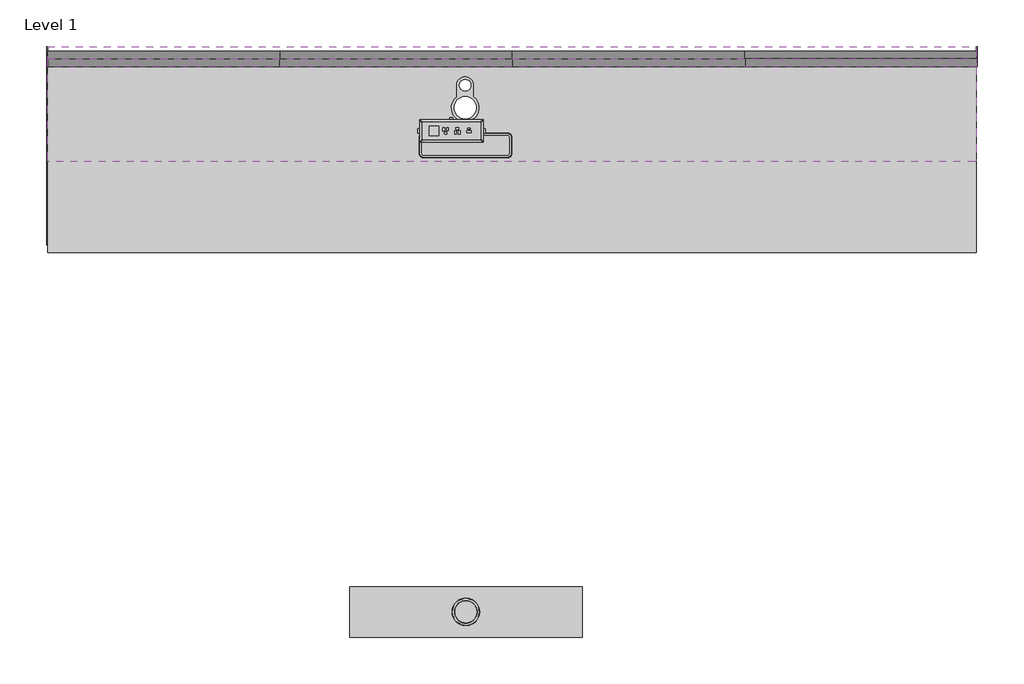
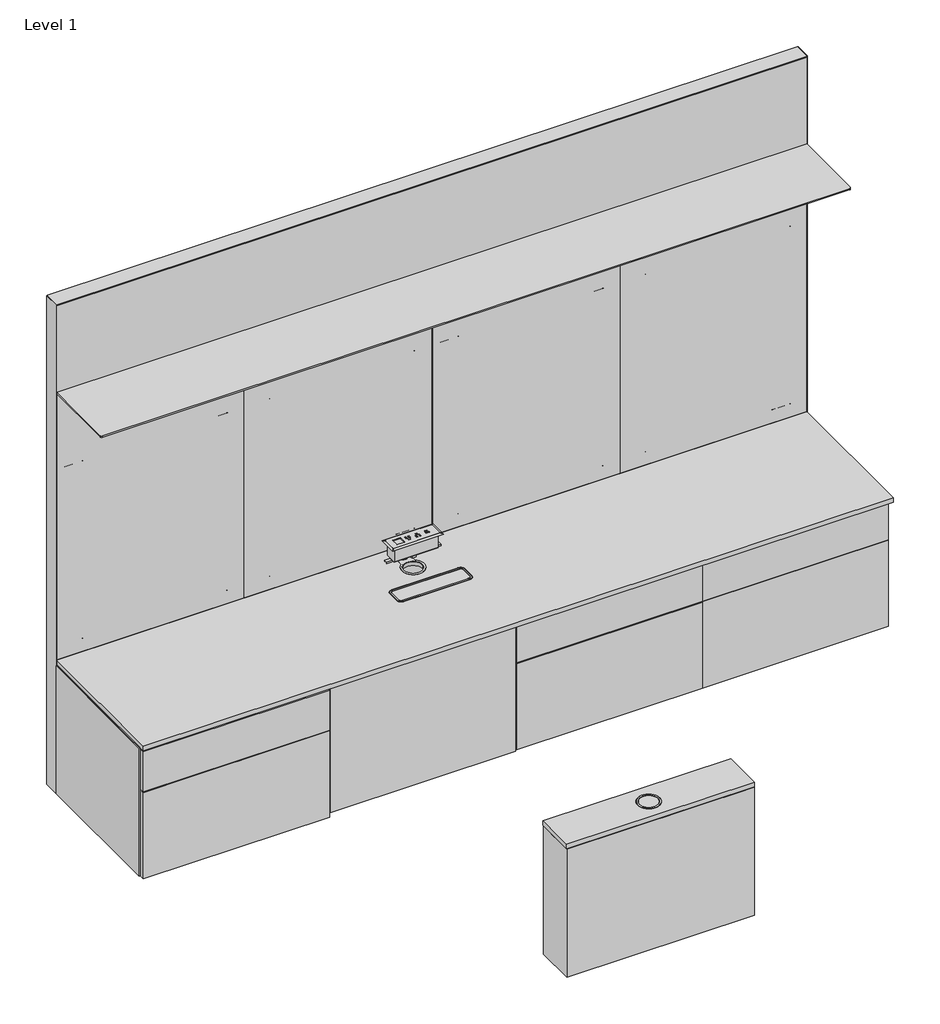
# One storey, incomplete: 19 furniture elements.
"""IFC4 building model written with IfcOpenShell, lengths in millimetres."""

from ifc_helpers import new_model, si_unit, origin, place, context, project, spatial, transform, mapped, element, save
from components import furniture_3015be08, furniture_4879214a, furniture_b60a1e1f, furniture_a1cb8eb2, furniture_5c446557, furniture_7d34e3fb, furniture_9a9e18b9, furniture_ab4901f7, furniture_4bc6fa38, furniture_3d431983, in_surface_33791ff7

model = new_model("IFC4")

# Units and contexts
model_context = context("Model", 3, world=origin())
ifc_project = project(units=[si_unit("LENGTHUNIT", "METRE", prefix="MILLI")], contexts=[model_context])

# Site, building, storey
site = spatial("IfcSite", under=ifc_project)
building = spatial("IfcBuilding", under=site)
storey = spatial("IfcBuildingStorey", under=building, Name="Level 1", Elevation=0.0)

# Furniture
placement = place(None, origin())
furniture_shape = furniture_3015be08(model_context)
element("IfcFurniture", 1, ObjectType="Geiger_GeigerOneCasegoods_LowStorage1Box1File : Vertical Veneer 30Wx24Dx21.75H", at=placement, inside=storey, context=model_context, shape_type="MappedRepresentation", body=[
    mapped(furniture_shape, transform((2146.1837672, 6625.0124171, 0.0), x_axis=(1.0, 0.0, 0.0), y_axis=(0.0, 1.0, 0.0), z_axis=(0.0, 0.0, 1.0))),
])
element("IfcFurniture", 2, ObjectType="Geiger_GeigerOneCasegoods_LowStorage1Box1File : Vertical Veneer 30Wx24Dx21.75H", at=placement, inside=storey, context=model_context, shape_type="MappedRepresentation", body=[
    mapped(furniture_shape, transform((3678.2637672, 6653.5524171, 0.0), x_axis=(1.0, 0.0, 0.0), y_axis=(0.0, 1.0, 0.0), z_axis=(0.0, 0.0, 1.0))),
])
element("IfcFurniture", 3, ObjectType="Geiger_GeigerOneCasegoods_LowStorage1Box1File : Vertical Veneer 30Wx24Dx21.75H", at=placement, inside=storey, context=model_context, shape_type="MappedRepresentation", body=[
    mapped(furniture_shape, transform((4435.1837672, 6653.5524171, 0.0), x_axis=(1.0, 0.0, 0.0), y_axis=(0.0, 1.0, 0.0), z_axis=(0.0, 0.0, 1.0))),
])
furniture_2_shape = furniture_4879214a(model_context)
element("IfcFurniture", 4, ObjectType="Geiger_GeigerOneCasegoods_KneespaceCoverPanel : Vertical Veneer 29.75Wx 0.75Dx 21.75H", at=placement, inside=storey, context=model_context, shape_type="MappedRepresentation", body=[
    mapped(furniture_2_shape, transform((2919.5540391, 6055.472289, 15.6972), x_axis=(1.0, 0.0, 0.0), y_axis=(0.0, 1.0, 0.0), z_axis=(0.0, 0.0, 1.0))),
])
furniture_3_shape = furniture_b60a1e1f(model_context)
element("IfcFurniture", 5, ObjectType="Geiger_GeigerOneCasegoods_LegSupport : Box 30Wx 6.5Dx 22.5H", at=placement, inside=storey, context=model_context, shape_type="MappedRepresentation", body=[
    mapped(furniture_3_shape, transform((3521.7964507, 4834.9438668, 0.0), x_axis=(1.0, 0.0, 0.0), y_axis=(0.0, 1.0, 0.0), z_axis=(0.0, 0.0, 1.0))),
])
furniture_4_shape = furniture_a1cb8eb2(model_context)
element("IfcFurniture", 6, ObjectType="Geiger_GeigerOneCasegoods_WallTileAcceptsTileAboveFabric : Fabric 30Wx 1.25Dx 45H", at=placement, inside=storey, context=model_context, shape_type="MappedRepresentation", body=[
    mapped(furniture_4_shape, transform((4438.4930669, 6657.8600425, 585.1906), x_axis=(1.0, 0.0, 0.0), y_axis=(0.0, 1.0, 0.0), z_axis=(0.0, 0.0, 1.0))),
])
element("IfcFurniture", 7, ObjectType="Geiger_GeigerOneCasegoods_WallTileAcceptsTileAboveFabric : Fabric 30Wx 1.25Dx 45H", at=placement, inside=storey, context=model_context, shape_type="MappedRepresentation", body=[
    mapped(furniture_4_shape, transform((3676.4930669, 6657.8600425, 585.1906), x_axis=(1.0, 0.0, 0.0), y_axis=(0.0, 1.0, 0.0), z_axis=(0.0, 0.0, 1.0))),
])
element("IfcFurniture", 8, ObjectType="Geiger_GeigerOneCasegoods_WallTileAcceptsTileAboveFabric : Fabric 30Wx 1.25Dx 45H", at=placement, inside=storey, context=model_context, shape_type="MappedRepresentation", body=[
    mapped(furniture_4_shape, transform((2911.3180669, 6657.8600425, 585.1906), x_axis=(1.0, 0.0, 0.0), y_axis=(0.0, 1.0, 0.0), z_axis=(0.0, 0.0, 1.0))),
])
element("IfcFurniture", 9, ObjectType="Geiger_GeigerOneCasegoods_WallTileAcceptsTileAboveFabric : Fabric 30Wx 1.25Dx 45H", at=placement, inside=storey, context=model_context, shape_type="MappedRepresentation", body=[
    mapped(furniture_4_shape, transform((2149.3180669, 6657.8600425, 585.1906), x_axis=(1.0, 0.0, 0.0), y_axis=(0.0, 1.0, 0.0), z_axis=(0.0, 0.0, 1.0))),
])
furniture_5_shape = furniture_5c446557(model_context)
element("IfcFurniture", 10, ObjectType="Geiger_GeigerOneCasegoods_WallEndTrim : SingleSided 2.625Wx 0.125Dx 82.625H", at=placement, inside=storey, context=model_context, shape_type="MappedRepresentation", body=[
    mapped(furniture_5_shape, transform((2149.1837672, 6657.8499171, 12.7), x_axis=(-1.0, 0.0, 0.0), y_axis=(0.0, -1.0, 0.0), z_axis=(0.0, 0.0, 1.0))),
])
furniture_6_shape = furniture_7d34e3fb(model_context)
element("IfcFurniture", 11, ObjectType="Geiger_GeigerOneCasegoods_WallTopTrimSingleSidedWall : 120Wx2.625Dx0.125H", at=placement, inside=storey, context=model_context, shape_type="MappedRepresentation", body=[
    mapped(furniture_6_shape, transform((2149.1837672, 6657.5124171, 2108.708), x_axis=(1.0, 0.0, 0.0), y_axis=(0.0, 1.0, 0.0), z_axis=(0.0, 0.0, 1.0))),
])
furniture_7_shape = furniture_9a9e18b9(model_context)
element("IfcFurniture", 12, ObjectType="Geiger_GeigerOneCasegoods_WallEndTrim : SingleSided 2.625Wx 0.125Dx 82.625H", at=placement, inside=storey, context=model_context, shape_type="MappedRepresentation", body=[
    mapped(furniture_7_shape, transform((5197.1837672, 6657.8499171, 12.7), x_axis=(1.0, 0.0, 0.0), y_axis=(0.0, 1.0, 0.0), z_axis=(0.0, 0.0, 1.0))),
])
furniture_8_shape = furniture_ab4901f7(model_context)
element("IfcFurniture", 13, ObjectType="Geiger_GeigerOneCasegoods_WallFrameStandardApplication : 30Wx1Dx82.5H", at=placement, inside=storey, context=model_context, shape_type="MappedRepresentation", body=[
    mapped(furniture_8_shape, transform((2149.1837672, 6676.5124171, 0.0), x_axis=(1.0, 0.0, 0.0), y_axis=(0.0, 1.0, 0.0), z_axis=(0.0, 0.0, 1.0))),
])
element("IfcFurniture", 14, ObjectType="Geiger_GeigerOneCasegoods_WallFrameStandardApplication : 30Wx1Dx82.5H", at=placement, inside=storey, context=model_context, shape_type="MappedRepresentation", body=[
    mapped(furniture_8_shape, transform((2911.1837672, 6676.5124171, 0.0), x_axis=(1.0, 0.0, 0.0), y_axis=(0.0, 1.0, 0.0), z_axis=(0.0, 0.0, 1.0))),
])
element("IfcFurniture", 15, ObjectType="Geiger_GeigerOneCasegoods_WallFrameStandardApplication : 30Wx1Dx82.5H", at=placement, inside=storey, context=model_context, shape_type="MappedRepresentation", body=[
    mapped(furniture_8_shape, transform((3673.1837672, 6676.5124171, 0.0), x_axis=(1.0, 0.0, 0.0), y_axis=(0.0, 1.0, 0.0), z_axis=(0.0, 0.0, 1.0))),
])
element("IfcFurniture", 16, ObjectType="Geiger_GeigerOneCasegoods_WallFrameStandardApplication : 30Wx1Dx82.5H", at=placement, inside=storey, context=model_context, shape_type="MappedRepresentation", body=[
    mapped(furniture_8_shape, transform((4435.1837672, 6676.5124171, 0.0), x_axis=(1.0, 0.0, 0.0), y_axis=(0.0, 1.0, 0.0), z_axis=(0.0, 0.0, 1.0))),
])
furniture_9_shape = furniture_4bc6fa38(model_context)
element("IfcFurniture", 17, ObjectType="Geiger_GeigerOneCasegoods_OverheadStorageMetalShelf : Horizontal Veneer Back 120Wx 13.5Dx 14.875H", at=placement, inside=storey, context=model_context, shape_type="MappedRepresentation", body=[
    mapped(furniture_9_shape, transform((2149.1837672, 6650.5124171, 1728.724), x_axis=(1.0, 0.0, 0.0), y_axis=(0.0, 1.0, 0.0), z_axis=(0.0, 0.0, 1.0))),
])
furniture_10_shape = furniture_3d431983(model_context)
element("IfcFurniture", 18, ObjectType="Geiger_GeigerOneCasegoods_CredenzaTopLowHeightWithLegandShro : Veneer 120Wx 24Dx 0.75H", at=placement, inside=storey, context=model_context, shape_type="MappedRepresentation", body=[
    mapped(furniture_10_shape, transform((2149.1837672, 6625.1124171, 565.404), x_axis=(1.0, 0.0, 0.0), y_axis=(0.0, 1.0, 0.0), z_axis=(0.0, 0.0, 1.0))),
])
in_surface_shape = in_surface_33791ff7(model_context)
element("IfcFurniture", 19, ObjectType="Geiger_GeigerOneCasegoods_PowerComponent2PowerOutlets1USBA1USBC : In Surface", at=placement, inside=storey, context=model_context, shape_type="MappedRepresentation", body=[
    mapped(in_surface_shape, transform((3474.5960464, 6414.2880071, 775.0152), x_axis=(1.0, 0.0, 0.0), y_axis=(0.0, 1.0, 0.0), z_axis=(0.0, 0.0, 1.0))),
])

save(model, "model.ifc")
